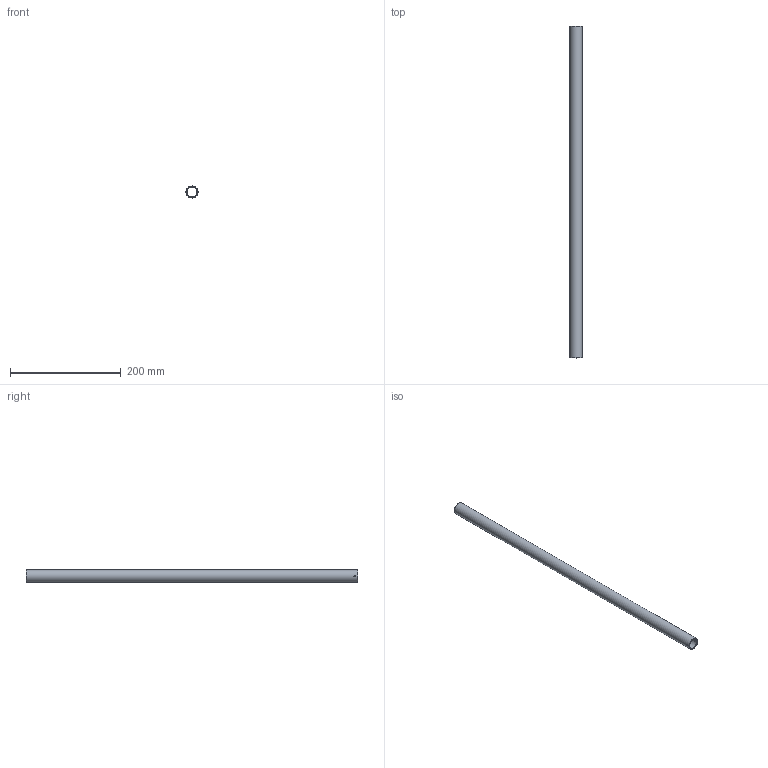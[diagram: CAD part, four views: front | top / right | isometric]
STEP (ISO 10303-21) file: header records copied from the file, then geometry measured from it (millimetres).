
FILE_DESCRIPTION(/* description */ ('VERTICAL ROD Ø22x2mm'),/* implementation_level */ '2;1');
FILE_NAME(/* name */ 'S:\UFFICIO TECNICO 2019\PRODOTTI ROTALIANA\SOUVLAKI\FILES 3D STEP_tutti componenti souvlaki\KSVTS.stp',/* time_stamp */ '2024-03-13T16:38:52+01:00',/* author */ ('mtesta'),/* organization */ (''),/* preprocessor_version */ 'ST-DEVELOPER v18.1',/* originating_system */ 'Autodesk Inventor 2021',/* authorisation */ '');
FILE_SCHEMA (('AUTOMOTIVE_DESIGN { 1 0 10303 214 3 1 1 }'));
Length unit declared in the file: millimetre
Products named in the file (1): D09426
Bounding box: 22 x 600 x 22 mm (x, y, z)
Volume: 75101.9 mm3; surface area: 75634.5 mm2
Topology: 1 solids, 1 shells, 10 faces, 31 edges, 21 vertices
Faces by surface type: cylinder 5, cone 3, plane 2
Full cylindrical faces by diameter (mm): 2.459 x2, 18 x1, 18.376 x1, 22 x1
Entity records: 535 total; most frequent: CARTESIAN_POINT 201, ORIENTED_EDGE 62, DIRECTION 54, EDGE_CURVE 31, AXIS2_PLACEMENT_3D 22, VERTEX_POINT 21, EDGE_LOOP 14, CIRCLE 11
